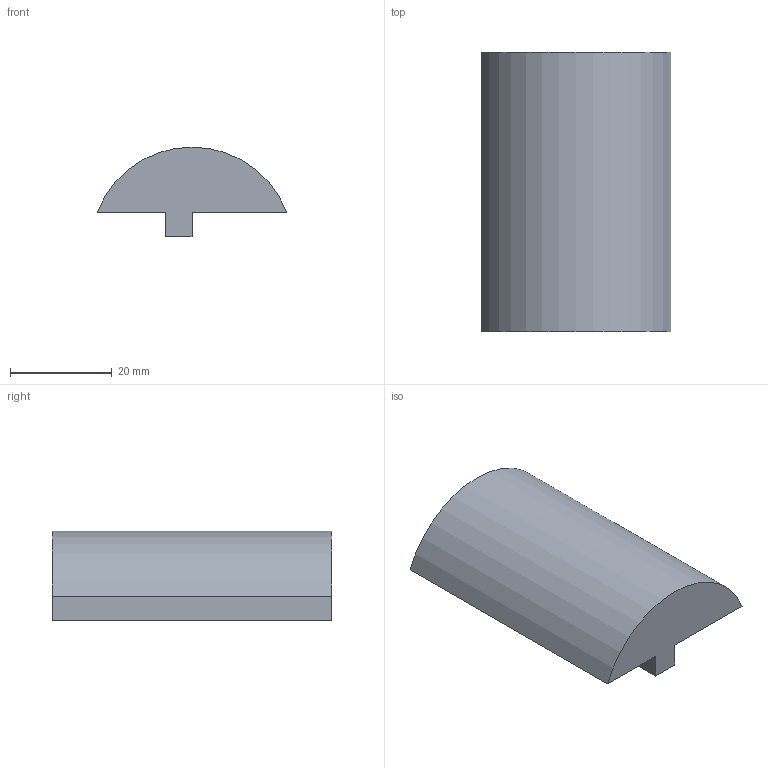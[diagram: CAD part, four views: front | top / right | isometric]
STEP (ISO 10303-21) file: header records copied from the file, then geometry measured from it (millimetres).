
FILE_DESCRIPTION(/* description */ (''),/* implementation_level */ '2;1');
FILE_NAME(/* name */ 'Z:\Projektname\Bauteile\Muster_Forum\Neuer Ordner\STEP\Klemplate_1.step',/* time_stamp */ '2025-02-17T07:16:19+01:00',/* author */ ('MVM1'),/* organization */ (''),/* preprocessor_version */ 'ST-DEVELOPER v19',/* originating_system */ 'Autodesk Inventor 2023',/* authorisation */ '');
FILE_SCHEMA (('CONFIG_CONTROL_DESIGN'));
Length unit declared in the file: millimetre
Products named in the file (1): Klemplate_1
Bounding box: 37.38 x 55 x 17.66 mm (x, y, z)
Volume: 20615.9 mm3; surface area: 5986 mm2
Topology: 1 solids, 1 shells, 8 faces, 18 edges, 12 vertices
Faces by surface type: plane 7, cylinder 1
Entity records: 284 total; most frequent: CARTESIAN_POINT 39, DIRECTION 38, ORIENTED_EDGE 36, EDGE_CURVE 18, LINE 16, VECTOR 16, VERTEX_POINT 12, AXIS2_PLACEMENT_3D 11
